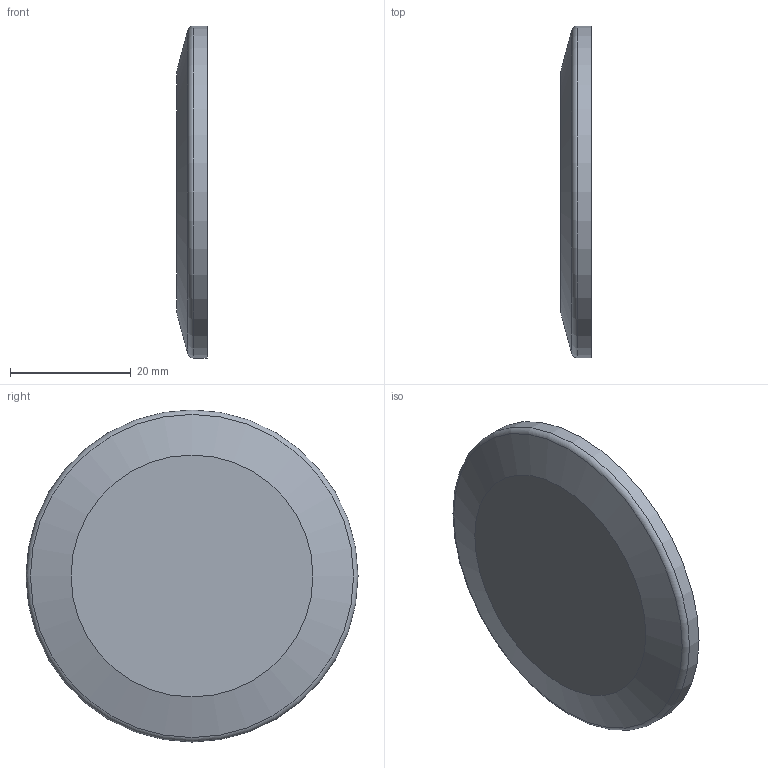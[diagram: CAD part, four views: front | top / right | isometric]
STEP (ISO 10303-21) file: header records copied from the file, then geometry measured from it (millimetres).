
FILE_DESCRIPTION((''),'2;1');
FILE_NAME('W:\3D-Modelle Inficon-Katalog\Derivate_2\M211-794.stp','2012-04-17T13:31:36',('KAA'),(''),'Autodesk Inventor 2012','Autodesk Inventor 2012','');
FILE_SCHEMA(('AUTOMOTIVE_DESIGN { 1 0 10303 214 1 1 1 1 }'));
Length unit declared in the file: millimetre
Products named in the file (1): M211-794
Bounding box: 5 x 55 x 55 mm (x, y, z)
Volume: 9265.2 mm3; surface area: 5838.6 mm2
Topology: 1 solids, 1 shells, 9 faces, 13 edges, 8 vertices
Faces by surface type: plane 4, cylinder 3, torus 1, cone 1
Full cylindrical faces by diameter (mm): 31.2 x1, 41.2 x1, 55 x1
Entity records: 200 total; most frequent: DIRECTION 36, CARTESIAN_POINT 26, AXIS2_PLACEMENT_3D 18, ORIENTED_EDGE 16, EDGE_LOOP 16, FACE_OUTER_BOUND 9, ADVANCED_FACE 9, VERTEX_POINT 8
